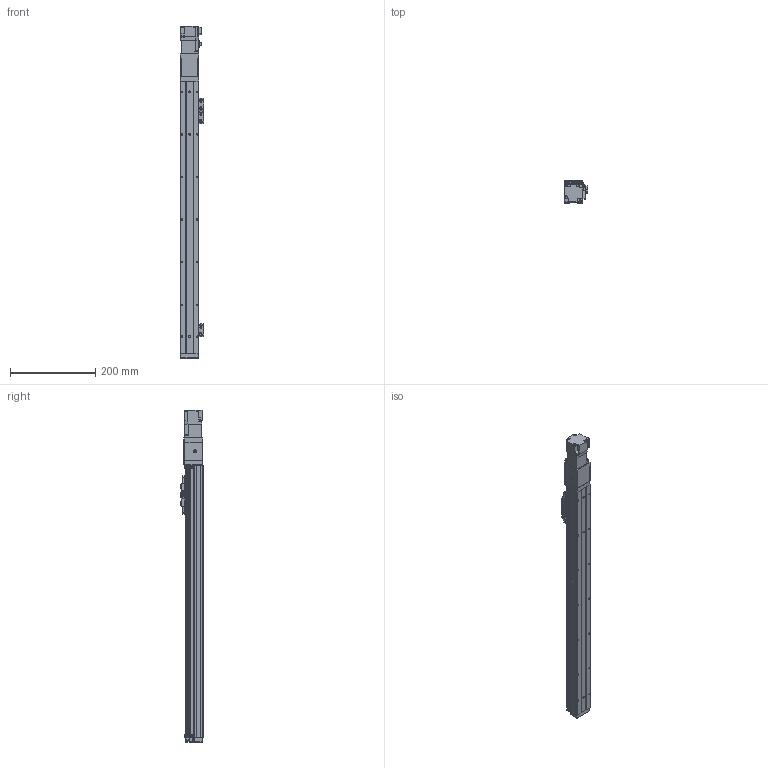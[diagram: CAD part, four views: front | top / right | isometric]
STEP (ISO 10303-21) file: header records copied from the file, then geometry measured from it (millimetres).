
FILE_DESCRIPTION (( 'STEP AP203' ), '1' );
FILE_NAME ('BTH40-500-BC-M05-C4.step', '2021-12-16T00:12:17', ( '微软用户' ), ( '微软中国' ), 'SwSTEP 2.0', 'SolidWorks 2020', '' );
FILE_SCHEMA (( 'CONFIG_CONTROL_DESIGN' ));
Length unit declared in the file: millimetre
Products named in the file (19): BTH50-028; BTH40-004; BTH50-023; BTH40-013; BTH40-017; BTH40-001-50_BTH40-001-500; BTH50-024; HG-KR13; BTH40-005-1; BTH40-003; GBT 70.1-M3℅6; GBT 70.3-M3℅6; BTH40-500-BC-M05-C4; BTH40-006; GBT96.1-2002 3×0.8; BTH-M3X5X6; BTH40-022; GBT70.1-2000 M3×16; GBT 70.1-M2.5×6
Assembly tree (49 placements, depth 2):
  BTH40-500-BC-M05-C4
    BTH40-001-50_BTH40-001-500
    BTH40-003
    BTH40-006
    BTH-M3X5X6  x10
    GBT70.1-2000 M3×16  x4
    BTH50-028  x2
    BTH50-023  x3
    BTH50-024  x3
    GBT 70.1-M3℅6  x6
    GBT96.1-2002 3×0.8  x6
    BTH40-022
    GBT 70.1-M2.5×6  x2
    BTH40-004
    BTH40-013
    HG-KR13
    GBT 70.3-M3℅6  x4
    BTH40-017
    BTH40-005-1
Bounding box: 55.2 x 52 x 779.4 mm (x, y, z)
Volume: 1213176.9 mm3; surface area: 226432.2 mm2
Topology: 51 solids, 51 shells, 1962 faces, 4621 edges, 2860 vertices
Faces by surface type: plane 1088, cylinder 465, cone 257, torus 132, bspline 16, sphere 4
Entity records: 37835 total; most frequent: CARTESIAN_POINT 6838, DIRECTION 5944, ORIENTED_EDGE 5704, EDGE_CURVE 2852, VECTOR 2014, LINE 2014, AXIS2_PLACEMENT_3D 1965, VERTEX_POINT 1791
